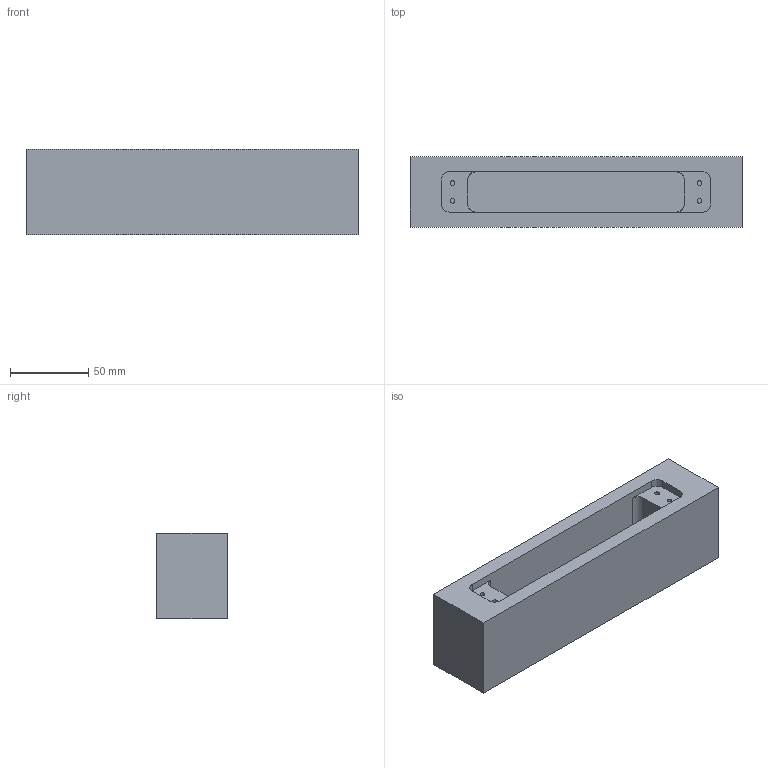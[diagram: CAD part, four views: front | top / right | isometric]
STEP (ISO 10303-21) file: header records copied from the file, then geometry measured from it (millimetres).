
FILE_DESCRIPTION(/* description */ (''),/* implementation_level */ '2;1');
FILE_NAME(/* name */ 'Stealthpivot-NL-cavity-step',/* time_stamp */ '2024-06-19T09:45:37+02:00',/* author */ (''),/* organization */ (''),/* preprocessor_version */ 'ST-DEVELOPER v16.5',/* originating_system */ '',/* authorisation */ '');
FILE_SCHEMA (('AUTOMOTIVE_DESIGN'));
Length unit declared in the file: millimetre
Products named in the file (1): Document
Bounding box: 212.5 x 45 x 55 mm (x, y, z)
Volume: 396649.7 mm3; surface area: 60117.5 mm2
Topology: 1 solids, 1 shells, 35 faces, 84 edges, 56 vertices
Faces by surface type: plane 19, bspline 16
Entity records: 996 total; most frequent: CARTESIAN_POINT 457, ORIENTED_EDGE 168, EDGE_CURVE 84, VERTEX_POINT 56, EDGE_LOOP 40, ADVANCED_FACE 35, FACE_OUTER_BOUND 35, B_SPLINE_CURVE_WITH_KNOTS 34
